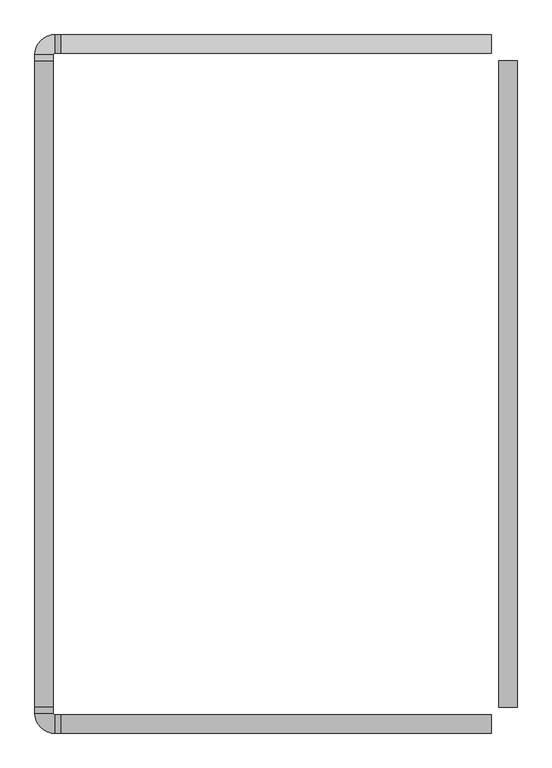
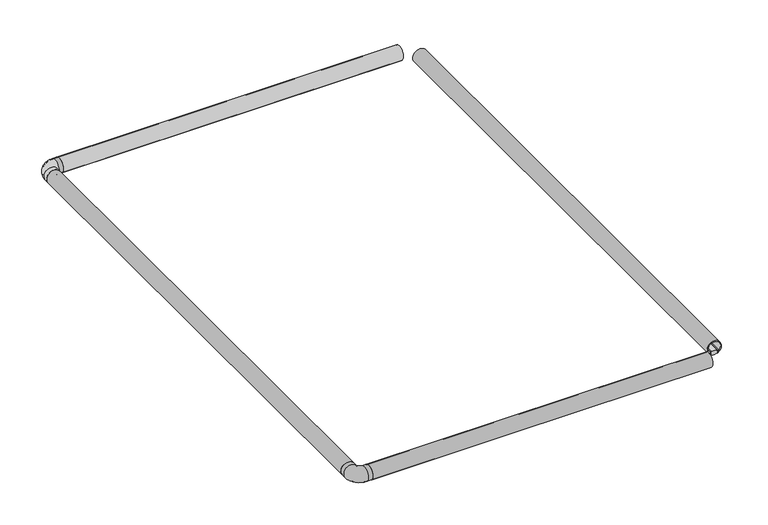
"""IFC4 building model written with IfcOpenShell, lengths in millimetres: light fixture geometry."""

from ifc_helpers import new_model, si_unit, point, frame, frame_2d, origin, place, context, project, spatial, polyline, circle_curve, ellipse_curve, trimmed, segment, composite_curve, outline, extrude, source, transform, mapped, element, save
from ifc_brep_helpers import plane_surface, cylinder_surface, revolved_surface, advanced_brep


def light_fixture_c9aaeca1(model_context):
    return source(origin(), model_context, "Body", "SolidModel", [
        advanced_brep(
        [(36.75, -69.5, 52.9333396), (36.75, -69.5, 57.259212), (38.667754, -69.5, 57.259212), (38.667754, -69.5, 55.8288843), (40.617754, -69.5, 57.2440748), (40.617754, -69.5, 59.244074), (37.667754, -69.5, 59.244074), (37.667754, -69.5, 60.744074), (42.2779794, -69.5, 60.744074), (7.7220206, -69.5, 60.744074), (12.332246, -69.5, 60.744074), (12.332246, -69.5, 59.244074), (9.382246, -69.5, 59.244074), (9.382246, -69.5, 57.2440748), (11.332246, -69.5, 55.8288843), (11.332246, -69.5, 57.259212), (13.25, -69.5, 57.259212), (13.25, -69.5, 52.9333396), (70.5, -103.25, 52.9333396), (70.5, -126.75, 52.9333396), (70.5, -126.75, 57.259212), (70.5, -128.667754, 57.259212), (70.5, -128.667754, 55.8288843), (70.5, -130.617754, 57.2440748), (70.5, -130.617754, 59.244074), (70.5, -127.667754, 59.244074), (70.5, -127.667754, 60.744074), (70.5, -132.2779794, 60.744074), (70.5, -97.7220206, 60.744074), (70.5, -102.332246, 60.744074), (70.5, -102.332246, 59.244074), (70.5, -99.382246, 59.244074), (70.5, -99.382246, 57.2440748), (70.5, -101.332246, 55.8288843), (70.5, -101.332246, 57.259212), (70.5, -103.25, 57.259212), (13.25, -85.0, 52.9333396), (36.75, -85.0, 52.9333396), (13.25, -85.0, 57.259212), (11.332246, -85.0, 57.259212), (55.0, -128.667754, 57.259212), (55.0, -126.75, 57.259212), (11.332246, -85.0, 55.8288843), (9.382246, -85.0, 57.2440748), (9.382246, -85.0, 59.244074), (12.332246, -85.0, 59.244074), (55.0, -127.667754, 59.244074), (55.0, -130.617754, 59.244074), (12.332246, -85.0, 60.744074), (7.7220206, -85.0, 60.744074), (55.0, -132.2779794, 60.744074), (55.0, -127.667754, 60.744074), (42.2779794, -85.0, 60.744074), (37.667754, -85.0, 60.744074), (55.0, -102.332246, 60.744074), (55.0, -97.7220206, 60.744074), (37.667754, -85.0, 59.244074), (40.617754, -85.0, 59.244074), (55.0, -99.382246, 59.244074), (55.0, -102.332246, 59.244074), (40.617754, -85.0, 57.2440748), (38.667754, -85.0, 55.8288843), (38.667754, -85.0, 57.259212), (36.75, -85.0, 57.259212), (55.0, -103.25, 57.259212), (55.0, -101.332246, 57.259212), (55.0, -103.25, 52.9333396), (55.0, -126.75, 52.9333396), (55.0, -128.667754, 55.8288843), (55.0, -130.617754, 57.2440748), (55.0, -99.382246, 57.2440748), (55.0, -101.332246, 55.8288843)],
        [
            (0, 1),
            (1, 2),
            (2, 3),
            (3, 4),
            (4, 5),
            (5, 6),
            (6, 7),
            (7, 8),
            (8, 9, circle_curve(frame((25.0, -69.5, 75.0), z_axis=(0.0, -1.0, 0.0), x_axis=(1.0, 0.0, 0.0)), 22.4)),
            (9, 10),
            (10, 11),
            (11, 12),
            (12, 13),
            (13, 14),
            (14, 15),
            (15, 16),
            (16, 17),
            (17, 0, circle_curve(frame((25.0, -69.5, 75.0), z_axis=(0.0, 1.0, 0.0), x_axis=(1.0, 0.0, 0.0)), 25.0)),
            (18, 19, circle_curve(frame((70.5, -115.0, 75.0), z_axis=(1.0, 0.0, 0.0), x_axis=(0.0, 1.0, 0.0)), 25.0)),
            (19, 20),
            (20, 21),
            (21, 22),
            (22, 23),
            (23, 24),
            (24, 25),
            (25, 26),
            (26, 27),
            (27, 28, circle_curve(frame((70.5, -115.0, 75.0), z_axis=(-1.0, 0.0, 0.0), x_axis=(0.0, 1.0, 0.0)), 22.4)),
            (28, 29),
            (29, 30),
            (30, 31),
            (31, 32),
            (32, 33),
            (33, 34),
            (34, 35),
            (35, 18),
            (17, 36),
            (36, 37, circle_curve(frame((25.0, -85.0, 75.0), z_axis=(0.0, 1.0, 0.0), x_axis=(1.0, 0.0, 0.0)), 25.0)),
            (37, 0),
            (16, 38),
            (38, 36),
            (15, 39),
            (39, 40, circle_curve(frame((55.0, -85.0, 57.259212), z_axis=(0.0, 0.0, 1.0), x_axis=(-1.0, 0.0, 0.0)), 43.667754)),
            (40, 21),
            (20, 41),
            (41, 38, circle_curve(frame((55.0, -85.0, 57.259212), z_axis=(0.0, 0.0, -1.0), x_axis=(-1.0, 0.0, 0.0)), 41.75)),
            (14, 42),
            (42, 39),
            (13, 43),
            (43, 42),
            (12, 44),
            (44, 43),
            (11, 45),
            (45, 46, circle_curve(frame((55.0, -85.0, 59.244074), z_axis=(0.0, 0.0, 1.0), x_axis=(-1.0, 0.0, 0.0)), 42.667754)),
            (46, 25),
            (24, 47),
            (47, 44, circle_curve(frame((55.0, -85.0, 59.244074), z_axis=(0.0, 0.0, -1.0), x_axis=(-1.0, 0.0, 0.0)), 45.617754)),
            (10, 48),
            (48, 45),
            (9, 49),
            (49, 50, circle_curve(frame((55.0, -85.0, 60.744074), z_axis=(0.0, 0.0, 1.0), x_axis=(-1.0, 0.0, 0.0)), 47.2779794)),
            (50, 27),
            (26, 51),
            (51, 48, circle_curve(frame((55.0, -85.0, 60.744074), z_axis=(0.0, 0.0, -1.0), x_axis=(-1.0, 0.0, 0.0)), 42.667754)),
            (8, 52),
            (52, 49, circle_curve(frame((25.0, -85.0, 75.0), z_axis=(0.0, -1.0, 0.0), x_axis=(1.0, 0.0, 0.0)), 22.4)),
            (7, 53),
            (53, 54, circle_curve(frame((55.0, -85.0, 60.744074), z_axis=(0.0, 0.0, 1.0), x_axis=(-1.0, 0.0, 0.0)), 17.332246)),
            (54, 29),
            (28, 55),
            (55, 52, circle_curve(frame((55.0, -85.0, 60.744074), z_axis=(0.0, 0.0, -1.0), x_axis=(-1.0, 0.0, 0.0)), 12.7220206)),
            (6, 56),
            (56, 53),
            (5, 57),
            (57, 58, circle_curve(frame((55.0, -85.0, 59.244074), z_axis=(0.0, 0.0, 1.0), x_axis=(-1.0, 0.0, 0.0)), 14.382246)),
            (58, 31),
            (30, 59),
            (59, 56, circle_curve(frame((55.0, -85.0, 59.244074), z_axis=(0.0, 0.0, -1.0), x_axis=(-1.0, 0.0, 0.0)), 17.332246)),
            (4, 60),
            (60, 57),
            (3, 61),
            (61, 60),
            (2, 62),
            (62, 61),
            (1, 63),
            (63, 64, circle_curve(frame((55.0, -85.0, 57.259212), z_axis=(0.0, 0.0, 1.0), x_axis=(-1.0, 0.0, 0.0)), 18.25)),
            (64, 35),
            (34, 65),
            (65, 62, circle_curve(frame((55.0, -85.0, 57.259212), z_axis=(0.0, 0.0, -1.0), x_axis=(-1.0, 0.0, 0.0)), 16.332246)),
            (37, 63),
            (66, 37, circle_curve(frame((55.0, -85.0, 52.9333396), z_axis=(0.0, 0.0, -1.0), x_axis=(-1.0, 0.0, 0.0)), 18.25)),
            (36, 67, circle_curve(frame((55.0, -85.0, 52.9333396), z_axis=(0.0, 0.0, 1.0), x_axis=(-1.0, 0.0, 0.0)), 41.75)),
            (67, 66, circle_curve(frame((55.0, -115.0, 75.0), z_axis=(-1.0, 0.0, 0.0), x_axis=(0.0, 1.0, 0.0)), 25.0)),
            (41, 67),
            (42, 68, circle_curve(frame((55.0, -85.0, 55.8288843), z_axis=(0.0, 0.0, 1.0), x_axis=(-1.0, 0.0, 0.0)), 43.667754)),
            (68, 40),
            (43, 69, circle_curve(frame((55.0, -85.0, 57.2440748), z_axis=(0.0, 0.0, 1.0), x_axis=(-1.0, 0.0, 0.0)), 45.617754)),
            (69, 68),
            (47, 69),
            (51, 46),
            (55, 50, circle_curve(frame((55.0, -115.0, 75.0), z_axis=(1.0, 0.0, 0.0), x_axis=(0.0, 1.0, 0.0)), 22.4)),
            (59, 54),
            (60, 70, circle_curve(frame((55.0, -85.0, 57.2440748), z_axis=(0.0, 0.0, 1.0), x_axis=(-1.0, 0.0, 0.0)), 14.382246)),
            (70, 58),
            (61, 71, circle_curve(frame((55.0, -85.0, 55.8288843), z_axis=(0.0, 0.0, 1.0), x_axis=(-1.0, 0.0, 0.0)), 16.332246)),
            (71, 70),
            (65, 71),
            (66, 64),
            (67, 19),
            (18, 66),
            (68, 22),
            (69, 23),
            (70, 32),
            (71, 33),
        ],
        [
            plane_surface(frame((25.0, -69.5, 50.0), z_axis=(0.0, 1.0, 0.0), x_axis=(0.0, 0.0, 1.0))),
            plane_surface(frame((70.5, -115.0, 50.0), z_axis=(1.0, 0.0, 0.0), x_axis=(0.0, 0.0, 1.0))),
            cylinder_surface(frame((25.0, -69.5, 75.0), z_axis=(0.0, 1.0, 0.0), x_axis=(1.0, 0.0, 0.0)), 25.0),
            plane_surface(frame((13.25, -69.5, 57.259212), z_axis=(1.0, 0.0, 0.0), x_axis=(0.0, -1.0, 0.0))),
            plane_surface(frame((11.332246, -69.5, 57.259212), z_axis=(0.0, 0.0, 1.0), x_axis=(0.0, -1.0, 0.0))),
            plane_surface(frame((11.332246, -69.5, 55.8288843), z_axis=(-1.0, 0.0, 0.0), x_axis=(0.0, -1.0, 0.0))),
            plane_surface(frame((9.382246, -69.5, 57.2440748), z_axis=(0.5873593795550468, 0.0, 0.8093262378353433), x_axis=(0.0, -1.0, 0.0))),
            plane_surface(frame((9.382246, -69.5, 59.244074), z_axis=(1.0, 0.0, 0.0), x_axis=(0.0, -1.0, 0.0))),
            plane_surface(frame((12.332246, -69.5, 59.244074), z_axis=(0.0, 0.0, -1.0), x_axis=(0.0, -1.0, 0.0))),
            plane_surface(frame((12.332246, -69.5, 60.744074), z_axis=(1.0, 0.0, 0.0), x_axis=(0.0, -1.0, 0.0))),
            plane_surface(frame((7.7220206, -69.5, 60.744074), z_axis=(0.0, 0.0, 1.0), x_axis=(0.0, -1.0, 0.0))),
            revolved_surface(polyline([(47.4, -85.0, 75.0), (47.4, -69.5, 75.0)]), (25.0, -69.5, 75.0), (0.0, -1.0, 0.0)),
            plane_surface(frame((37.667754, -69.5, 60.744074), z_axis=(0.0, 0.0, 1.0), x_axis=(0.0, -1.0, 0.0))),
            plane_surface(frame((37.667754, -69.5, 59.244074), z_axis=(-1.0, 0.0, 0.0), x_axis=(0.0, -1.0, 0.0))),
            plane_surface(frame((40.617754, -69.5, 59.244074), z_axis=(0.0, 0.0, -1.0), x_axis=(0.0, -1.0, 0.0))),
            plane_surface(frame((40.617754, -69.5, 57.2440748), z_axis=(-1.0, 0.0, 0.0), x_axis=(0.0, -1.0, 0.0))),
            plane_surface(frame((38.667754, -69.5, 55.8288843), z_axis=(-0.5873593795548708, 0.0, 0.8093262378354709), x_axis=(0.0, -1.0, 0.0))),
            plane_surface(frame((38.667754, -69.5, 57.259212), z_axis=(1.0, 0.0, 0.0), x_axis=(0.0, -1.0, 0.0))),
            plane_surface(frame((36.75, -69.5, 57.259212), z_axis=(0.0, 0.0, 1.0), x_axis=(0.0, -1.0, 0.0))),
            plane_surface(frame((36.75, -69.5, 52.9333396), z_axis=(-1.0, 0.0, 0.0), x_axis=(0.0, -1.0, 0.0))),
            revolved_surface(trimmed(ellipse_curve(frame((25.0, -85.0, 75.0), z_axis=(0.0, 1.0, 0.0), x_axis=(1.0, 0.0, 0.0)), 25.0, 25.0), [point((13.25, -85.0, 52.9333396))], [point((36.75, -85.0, 52.9333396))], True, "CARTESIAN"), (55.0, -85.0, 50.0), (0.0, 0.0, 1.0)),
            revolved_surface(polyline([(13.25, -85.0, 57.259212), (13.25, -85.0, 52.9333396)]), (55.0, -85.0, 50.0), (0.0, 0.0, 1.0)),
            cylinder_surface(frame((55.0, -85.0, 50.0), z_axis=(0.0, 0.0, 1.0), x_axis=(-1.0, 0.0, 0.0)), 43.667754),
            revolved_surface(polyline([(9.382246, -85.0, 57.2440748), (11.332246, -85.0, 55.8288843)]), (55.0, -85.0, 50.0), (0.0, 0.0, 1.0)),
            revolved_surface(polyline([(9.382246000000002, -85.0, 59.244074), (9.382246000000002, -85.0, 57.2440748)]), (55.0, -85.0, 50.0), (0.0, 0.0, 1.0)),
            revolved_surface(polyline([(12.332245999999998, -85.0, 60.744074), (12.332245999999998, -85.0, 59.244074)]), (55.0, -85.0, 50.0), (0.0, 0.0, 1.0)),
            revolved_surface(trimmed(ellipse_curve(frame((25.0, -85.0, 75.0), z_axis=(0.0, -1.0, 0.0), x_axis=(1.0, 0.0, 0.0)), 22.4, 22.4), [point((42.2779794, -85.0, 60.744074))], [point((7.7220206, -85.0, 60.744074))], True, "CARTESIAN"), (55.0, -85.0, 50.0), (0.0, 0.0, 1.0)),
            cylinder_surface(frame((55.0, -85.0, 50.0), z_axis=(0.0, 0.0, 1.0), x_axis=(-1.0, 0.0, 0.0)), 17.332246),
            cylinder_surface(frame((55.0, -85.0, 50.0), z_axis=(0.0, 0.0, 1.0), x_axis=(-1.0, 0.0, 0.0)), 14.382246),
            revolved_surface(polyline([(38.667754, -85.0, 55.8288843), (40.617754, -85.0, 57.2440748)]), (55.0, -85.0, 50.0), (0.0, 0.0, 1.0)),
            revolved_surface(polyline([(38.667754, -85.0, 57.259212), (38.667754, -85.0, 55.8288843)]), (55.0, -85.0, 50.0), (0.0, 0.0, 1.0)),
            cylinder_surface(frame((55.0, -85.0, 50.0), z_axis=(0.0, 0.0, 1.0), x_axis=(-1.0, 0.0, 0.0)), 18.25),
            cylinder_surface(frame((55.0, -115.0, 75.0), z_axis=(-1.0, 0.0, 0.0), x_axis=(0.0, 1.0, 0.0)), 25.0),
            plane_surface(frame((55.0, -126.75, 57.259212), z_axis=(0.0, 1.0, 0.0), x_axis=(1.0, 0.0, 0.0))),
            plane_surface(frame((55.0, -128.667754, 55.8288843), z_axis=(0.0, -1.0, 0.0), x_axis=(1.0, 0.0, 0.0))),
            plane_surface(frame((55.0, -130.617754, 57.2440748), z_axis=(0.0, 0.5873593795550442, 0.8093262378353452), x_axis=(1.0, 0.0, 0.0))),
            plane_surface(frame((55.0, -130.617754, 59.244074), z_axis=(0.0, 1.0, 0.0), x_axis=(1.0, 0.0, 0.0))),
            plane_surface(frame((55.0, -127.667754, 60.744074), z_axis=(0.0, 1.0, 0.0), x_axis=(1.0, 0.0, 0.0))),
            revolved_surface(polyline([(70.5, -92.6, 75.0), (55.0, -92.6, 75.0)]), (55.0, -115.0, 75.0), (1.0, 0.0, 0.0)),
            plane_surface(frame((55.0, -102.332246, 59.244074), z_axis=(0.0, -1.0, 0.0), x_axis=(1.0, 0.0, 0.0))),
            plane_surface(frame((55.0, -99.382246, 57.2440748), z_axis=(0.0, -1.0, 0.0), x_axis=(1.0, 0.0, 0.0))),
            plane_surface(frame((55.0, -101.332246, 55.8288843), z_axis=(0.0, -0.5873593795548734, 0.809326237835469), x_axis=(1.0, 0.0, 0.0))),
            plane_surface(frame((55.0, -101.332246, 57.259212), z_axis=(0.0, 1.0, 0.0), x_axis=(1.0, 0.0, 0.0))),
            plane_surface(frame((55.0, -103.25, 52.9333396), z_axis=(0.0, -1.0, 0.0), x_axis=(1.0, 0.0, 0.0))),
        ],
        [
            (0, [[1, 2, 3, 4, 5, 6, 7, 8, 9, 10, 11, 12, 13, 14, 15, 16, 17, 18]]),
            (1, [[19, 20, 21, 22, 23, 24, 25, 26, 27, 28, 29, 30, 31, 32, 33, 34, 35, 36]]),
            (2, [[-18, 37, 38, 39]]),
            (3, [[-17, 40, 41, -37]]),
            (4, [[-16, 42, 43, 44, -21, 45, 46, -40]]),
            (5, [[-15, 47, 48, -42]]),
            (6, [[-14, 49, 50, -47]]),
            (7, [[-13, 51, 52, -49]]),
            (8, [[-12, 53, 54, 55, -25, 56, 57, -51]]),
            (9, [[-11, 58, 59, -53]]),
            (10, [[-10, 60, 61, 62, -27, 63, 64, -58]]),
            (11, [[-9, 65, 66, -60]]),
            (12, [[-8, 67, 68, 69, -29, 70, 71, -65]]),
            (13, [[-7, 72, 73, -67]]),
            (14, [[-6, 74, 75, 76, -31, 77, 78, -72]]),
            (15, [[-5, 79, 80, -74]]),
            (16, [[-4, 81, 82, -79]]),
            (17, [[-3, 83, 84, -81]]),
            (18, [[-2, 85, 86, 87, -35, 88, 89, -83]]),
            (19, [[-1, -39, 90, -85]]),
            (20, [[91, -38, 92, 93]]),
            (21, [[-92, -41, -46, 94]]),
            (22, [[-43, -48, 95, 96]]),
            (23, [[-95, -50, 97, 98]]),
            (24, [[-97, -52, -57, 99]]),
            (25, [[-54, -59, -64, 100]]),
            (26, [[-61, -66, -71, 101]]),
            (27, [[-68, -73, -78, 102]]),
            (28, [[-75, -80, 103, 104]]),
            (29, [[-103, -82, 105, 106]]),
            (30, [[-105, -84, -89, 107]]),
            (31, [[-86, -90, -91, 108]]),
            (32, [[-93, 109, -19, 110]]),
            (33, [[-94, -45, -20, -109]]),
            (34, [[-96, 111, -22, -44]]),
            (35, [[-98, 112, -23, -111]]),
            (36, [[-99, -56, -24, -112]]),
            (37, [[-100, -63, -26, -55]]),
            (38, [[-101, -70, -28, -62]]),
            (39, [[-102, -77, -30, -69]]),
            (40, [[-104, 113, -32, -76]]),
            (41, [[-106, 114, -33, -113]]),
            (42, [[-107, -88, -34, -114]]),
            (43, [[-108, -110, -36, -87]]),
        ],
    ),
        advanced_brep(
        [(13.25, 1700.5, 52.9333396), (36.75, 1700.5, 52.9333396), (36.75, 1700.5, 57.259212), (40.304087, 1700.5, 57.259212), (40.304087, 1700.5, 58.785971), (34.5062575, 1700.5, 58.785971), (34.5062575, 1700.5, 64.4273482), (15.4937425, 1700.5, 64.4273482), (15.4937425, 1700.5, 58.785971), (9.695913, 1700.5, 58.785971), (9.695913, 1700.5, 57.259212), (13.25, 1700.5, 57.259212), (70.5, 1757.75, 52.9333396), (70.5, 1757.75, 57.259212), (70.5, 1761.304087, 57.259212), (70.5, 1761.304087, 58.785971), (70.5, 1755.5062575, 58.785971), (70.5, 1755.5062575, 64.4273482), (70.5, 1736.4937425, 64.4273482), (70.5, 1736.4937425, 58.785971), (70.5, 1730.695913, 58.785971), (70.5, 1730.695913, 57.259212), (70.5, 1734.25, 57.259212), (70.5, 1734.25, 52.9333396), (13.25, 1716.0, 52.9333396), (36.75, 1716.0, 52.9333396), (36.75, 1716.0, 57.259212), (55.0, 1734.25, 57.259212), (55.0, 1730.695913, 57.259212), (40.304087, 1716.0, 57.259212), (40.304087, 1716.0, 58.785971), (55.0, 1730.695913, 58.785971), (55.0, 1736.4937425, 58.785971), (34.5062575, 1716.0, 58.785971), (34.5062575, 1716.0, 64.4273482), (55.0, 1736.4937425, 64.4273482), (55.0, 1755.5062575, 64.4273482), (15.4937425, 1716.0, 64.4273482), (15.4937425, 1716.0, 58.785971), (55.0, 1755.5062575, 58.785971), (55.0, 1761.304087, 58.785971), (9.695913, 1716.0, 58.785971), (9.695913, 1716.0, 57.259212), (55.0, 1761.304087, 57.259212), (55.0, 1757.75, 57.259212), (13.25, 1716.0, 57.259212), (55.0, 1734.25, 52.9333396), (55.0, 1757.75, 52.9333396)],
        [
            (0, 1, circle_curve(frame((25.0, 1700.5, 75.0), z_axis=(0.0, -1.0, 0.0), x_axis=(-1.0, 0.0, 0.0)), 25.0)),
            (1, 2),
            (2, 3),
            (3, 4),
            (4, 5),
            (5, 6),
            (6, 7),
            (7, 8),
            (8, 9),
            (9, 10),
            (10, 11),
            (11, 0),
            (12, 13),
            (13, 14),
            (14, 15),
            (15, 16),
            (16, 17),
            (17, 18),
            (18, 19),
            (19, 20),
            (20, 21),
            (21, 22),
            (22, 23),
            (23, 12, circle_curve(frame((70.5, 1746.0, 75.0), z_axis=(1.0, 0.0, 0.0), x_axis=(0.0, 1.0, 0.0)), 25.0)),
            (0, 24),
            (24, 25, circle_curve(frame((25.0, 1716.0, 75.0), z_axis=(0.0, -1.0, 0.0), x_axis=(-1.0, 0.0, 0.0)), 25.0)),
            (25, 1),
            (25, 26),
            (26, 2),
            (26, 27, circle_curve(frame((55.0, 1716.0, 57.259212), z_axis=(0.0, 0.0, -1.0), x_axis=(-1.0, 0.0, 0.0)), 18.25)),
            (27, 22),
            (21, 28),
            (28, 29, circle_curve(frame((55.0, 1716.0, 57.259212), z_axis=(0.0, 0.0, 1.0), x_axis=(-1.0, 0.0, 0.0)), 14.695913)),
            (29, 3),
            (29, 30),
            (30, 4),
            (30, 31, circle_curve(frame((55.0, 1716.0, 58.785971), z_axis=(0.0, 0.0, -1.0), x_axis=(-1.0, 0.0, 0.0)), 14.695913)),
            (31, 20),
            (19, 32),
            (32, 33, circle_curve(frame((55.0, 1716.0, 58.785971), z_axis=(0.0, 0.0, 1.0), x_axis=(-1.0, 0.0, 0.0)), 20.4937425)),
            (33, 5),
            (33, 34),
            (34, 6),
            (34, 35, circle_curve(frame((55.0, 1716.0, 64.4273482), z_axis=(0.0, 0.0, -1.0), x_axis=(-1.0, 0.0, 0.0)), 20.4937425)),
            (35, 18),
            (17, 36),
            (36, 37, circle_curve(frame((55.0, 1716.0, 64.4273482), z_axis=(0.0, 0.0, 1.0), x_axis=(-1.0, 0.0, 0.0)), 39.5062575)),
            (37, 7),
            (37, 38),
            (38, 8),
            (38, 39, circle_curve(frame((55.0, 1716.0, 58.785971), z_axis=(0.0, 0.0, -1.0), x_axis=(-1.0, 0.0, 0.0)), 39.5062575)),
            (39, 16),
            (15, 40),
            (40, 41, circle_curve(frame((55.0, 1716.0, 58.785971), z_axis=(0.0, 0.0, 1.0), x_axis=(-1.0, 0.0, 0.0)), 45.304087)),
            (41, 9),
            (41, 42),
            (42, 10),
            (42, 43, circle_curve(frame((55.0, 1716.0, 57.259212), z_axis=(0.0, 0.0, -1.0), x_axis=(-1.0, 0.0, 0.0)), 45.304087)),
            (43, 14),
            (13, 44),
            (44, 45, circle_curve(frame((55.0, 1716.0, 57.259212), z_axis=(0.0, 0.0, 1.0), x_axis=(-1.0, 0.0, 0.0)), 41.75)),
            (45, 11),
            (45, 24),
            (46, 25, circle_curve(frame((55.0, 1716.0, 52.9333396), z_axis=(0.0, 0.0, 1.0), x_axis=(-1.0, 0.0, 0.0)), 18.25)),
            (24, 47, circle_curve(frame((55.0, 1716.0, 52.9333396), z_axis=(0.0, 0.0, -1.0), x_axis=(-1.0, 0.0, 0.0)), 41.75)),
            (47, 46, circle_curve(frame((55.0, 1746.0, 75.0), z_axis=(-1.0, 0.0, 0.0), x_axis=(0.0, 1.0, 0.0)), 25.0)),
            (46, 27),
            (28, 31),
            (32, 35),
            (36, 39),
            (40, 43),
            (44, 47),
            (47, 12),
            (23, 46),
        ],
        [
            plane_surface(frame((25.0, 1700.5, 50.0), z_axis=(0.0, -1.0, 0.0), x_axis=(0.0, 0.0, 1.0))),
            plane_surface(frame((70.5, 1746.0, 50.0), z_axis=(1.0, 0.0, 0.0), x_axis=(0.0, 0.0, 1.0))),
            cylinder_surface(frame((25.0, 1700.5, 75.0), z_axis=(0.0, -1.0, 0.0), x_axis=(-1.0, 0.0, 0.0)), 25.0),
            plane_surface(frame((36.75, 1700.5, 52.9333396), z_axis=(1.0, 0.0, 0.0), x_axis=(0.0, 1.0, 0.0))),
            plane_surface(frame((36.75, 1700.5, 57.259212), z_axis=(0.0, 0.0, -1.0), x_axis=(0.0, 1.0, 0.0))),
            plane_surface(frame((40.304087, 1700.5, 57.259212), z_axis=(1.0, 0.0, 0.0), x_axis=(0.0, 1.0, 0.0))),
            plane_surface(frame((40.304087, 1700.5, 58.785971), z_axis=(0.0, 0.0, 1.0), x_axis=(0.0, 1.0, 0.0))),
            plane_surface(frame((34.5062575, 1700.5, 58.785971), z_axis=(1.0, 0.0, 0.0), x_axis=(0.0, 1.0, 0.0))),
            plane_surface(frame((34.5062575, 1700.5, 64.4273482), z_axis=(0.0, 0.0, 1.0), x_axis=(0.0, 1.0, 0.0))),
            plane_surface(frame((15.4937425, 1700.5, 64.4273482), z_axis=(-1.0, 0.0, 0.0), x_axis=(0.0, 1.0, 0.0))),
            plane_surface(frame((15.4937425, 1700.5, 58.785971), z_axis=(0.0, 0.0, 1.0), x_axis=(0.0, 1.0, 0.0))),
            plane_surface(frame((9.695913, 1700.5, 58.785971), z_axis=(-1.0, 0.0, 0.0), x_axis=(0.0, 1.0, 0.0))),
            plane_surface(frame((9.695913, 1700.5, 57.259212), z_axis=(0.0, 0.0, -1.0), x_axis=(0.0, 1.0, 0.0))),
            plane_surface(frame((13.25, 1700.5, 57.259212), z_axis=(-1.0, 0.0, 0.0), x_axis=(0.0, 1.0, 0.0))),
            revolved_surface(trimmed(ellipse_curve(frame((25.0, 1716.0, 75.0), z_axis=(0.0, -1.0, 0.0), x_axis=(-1.0, 0.0, 0.0)), 25.0, 25.0), [point((13.25, 1716.0, 52.9333396))], [point((36.75, 1716.0, 52.9333396))], True, "CARTESIAN"), (55.0, 1716.0, 50.0), (0.0, 0.0, -1.0)),
            revolved_surface(polyline([(36.75, 1716.0, 52.9333396), (36.75, 1716.0, 57.259212)]), (55.0, 1716.0, 50.0), (0.0, 0.0, -1.0)),
            revolved_surface(polyline([(40.304087, 1716.0, 57.259212), (40.304087, 1716.0, 58.785971)]), (55.0, 1716.0, 50.0), (0.0, 0.0, -1.0)),
            revolved_surface(polyline([(34.506257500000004, 1716.0, 58.785971), (34.506257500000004, 1716.0, 64.4273482)]), (55.0, 1716.0, 50.0), (0.0, 0.0, -1.0)),
            cylinder_surface(frame((55.0, 1716.0, 50.0), z_axis=(0.0, 0.0, -1.0), x_axis=(-1.0, 0.0, 0.0)), 39.5062575),
            cylinder_surface(frame((55.0, 1716.0, 50.0), z_axis=(0.0, 0.0, -1.0), x_axis=(-1.0, 0.0, 0.0)), 45.304087),
            cylinder_surface(frame((55.0, 1716.0, 50.0), z_axis=(0.0, 0.0, -1.0), x_axis=(-1.0, 0.0, 0.0)), 41.75),
            cylinder_surface(frame((55.0, 1746.0, 75.0), z_axis=(-1.0, 0.0, 0.0), x_axis=(0.0, 1.0, 0.0)), 25.0),
            plane_surface(frame((55.0, 1734.25, 52.9333396), z_axis=(0.0, -1.0, 0.0), x_axis=(1.0, 0.0, 0.0))),
            plane_surface(frame((55.0, 1730.695913, 57.259212), z_axis=(0.0, -1.0, 0.0), x_axis=(1.0, 0.0, 0.0))),
            plane_surface(frame((55.0, 1736.4937425, 58.785971), z_axis=(0.0, -1.0, 0.0), x_axis=(1.0, 0.0, 0.0))),
            plane_surface(frame((55.0, 1755.5062575, 64.4273482), z_axis=(0.0, 1.0, 0.0), x_axis=(1.0, 0.0, 0.0))),
            plane_surface(frame((55.0, 1761.304087, 58.785971), z_axis=(0.0, 1.0, 0.0), x_axis=(1.0, 0.0, 0.0))),
            plane_surface(frame((55.0, 1757.75, 57.259212), z_axis=(0.0, 1.0, 0.0), x_axis=(1.0, 0.0, 0.0))),
        ],
        [
            (0, [[1, 2, 3, 4, 5, 6, 7, 8, 9, 10, 11, 12]]),
            (1, [[13, 14, 15, 16, 17, 18, 19, 20, 21, 22, 23, 24]]),
            (2, [[-1, 25, 26, 27]]),
            (3, [[-2, -27, 28, 29]]),
            (4, [[-3, -29, 30, 31, -22, 32, 33, 34]]),
            (5, [[-4, -34, 35, 36]]),
            (6, [[-5, -36, 37, 38, -20, 39, 40, 41]]),
            (7, [[-6, -41, 42, 43]]),
            (8, [[-7, -43, 44, 45, -18, 46, 47, 48]]),
            (9, [[-8, -48, 49, 50]]),
            (10, [[-9, -50, 51, 52, -16, 53, 54, 55]]),
            (11, [[-10, -55, 56, 57]]),
            (12, [[-11, -57, 58, 59, -14, 60, 61, 62]]),
            (13, [[-12, -62, 63, -25]]),
            (14, [[64, -26, 65, 66]]),
            (15, [[-30, -28, -64, 67]]),
            (16, [[-37, -35, -33, 68]]),
            (17, [[-44, -42, -40, 69]]),
            (18, [[-51, -49, -47, 70]]),
            (19, [[-58, -56, -54, 71]]),
            (20, [[-65, -63, -61, 72]]),
            (21, [[-66, 73, -24, 74]]),
            (22, [[-67, -74, -23, -31]]),
            (23, [[-68, -32, -21, -38]]),
            (24, [[-69, -39, -19, -45]]),
            (25, [[-70, -46, -17, -52]]),
            (26, [[-71, -53, -15, -59]]),
            (27, [[-72, -60, -13, -73]]),
        ],
    ),
        advanced_brep(
        [(36.75, 1700.5, 52.9333396), (13.25, 1700.5, 52.9333396), (13.25, 1700.5, 57.259212), (11.332246, 1700.5, 57.259212), (11.332246, 1700.5, 55.8288843), (9.382246, 1700.5, 57.2440748), (9.382246, 1700.5, 59.244074), (12.332246, 1700.5, 59.244074), (12.332246, 1700.5, 60.744074), (7.7220206, 1700.5, 60.744074), (42.2779794, 1700.5, 60.744074), (37.667754, 1700.5, 60.744074), (37.667754, 1700.5, 59.244074), (40.617754, 1700.5, 59.244074), (40.617754, 1700.5, 57.2440748), (38.667754, 1700.5, 55.8288843), (38.667754, 1700.5, 57.259212), (36.75, 1700.5, 57.259212), (70.5, 1734.25, 52.9333396), (70.5, 1734.25, 57.259212), (70.5, 1732.332246, 57.259212), (70.5, 1732.332246, 55.8288843), (70.5, 1730.382246, 57.2440748), (70.5, 1730.382246, 59.244074), (70.5, 1733.332246, 59.244074), (70.5, 1733.332246, 60.744074), (70.5, 1728.7220206, 60.744074), (70.5, 1763.2779794, 60.744074), (70.5, 1758.667754, 60.744074), (70.5, 1758.667754, 59.244074), (70.5, 1761.617754, 59.244074), (70.5, 1761.617754, 57.2440748), (70.5, 1759.667754, 55.8288843), (70.5, 1759.667754, 57.259212), (70.5, 1757.75, 57.259212), (70.5, 1757.75, 52.9333396), (36.75, 1716.0, 52.9333396), (13.25, 1716.0, 52.9333396), (13.25, 1716.0, 57.259212), (55.0, 1757.75, 57.259212), (55.0, 1759.667754, 57.259212), (11.332246, 1716.0, 57.259212), (11.332246, 1716.0, 55.8288843), (9.382246, 1716.0, 57.2440748), (9.382246, 1716.0, 59.244074), (55.0, 1761.617754, 59.244074), (55.0, 1758.667754, 59.244074), (12.332246, 1716.0, 59.244074), (12.332246, 1716.0, 60.744074), (55.0, 1758.667754, 60.744074), (55.0, 1763.2779794, 60.744074), (7.7220206, 1716.0, 60.744074), (42.2779794, 1716.0, 60.744074), (55.0, 1728.7220206, 60.744074), (55.0, 1733.332246, 60.744074), (37.667754, 1716.0, 60.744074), (37.667754, 1716.0, 59.244074), (55.0, 1733.332246, 59.244074), (55.0, 1730.382246, 59.244074), (40.617754, 1716.0, 59.244074), (40.617754, 1716.0, 57.2440748), (38.667754, 1716.0, 55.8288843), (38.667754, 1716.0, 57.259212), (55.0, 1732.332246, 57.259212), (55.0, 1734.25, 57.259212), (36.75, 1716.0, 57.259212), (55.0, 1757.75, 52.9333396), (55.0, 1734.25, 52.9333396), (55.0, 1759.667754, 55.8288843), (55.0, 1761.617754, 57.2440748), (55.0, 1730.382246, 57.2440748), (55.0, 1732.332246, 55.8288843)],
        [
            (0, 1, circle_curve(frame((25.0, 1700.5, 75.0), z_axis=(0.0, -1.0, 0.0), x_axis=(-1.0, 0.0, 0.0)), 25.0)),
            (1, 2),
            (2, 3),
            (3, 4),
            (4, 5),
            (5, 6),
            (6, 7),
            (7, 8),
            (8, 9),
            (9, 10, circle_curve(frame((25.0, 1700.5, 75.0), z_axis=(0.0, 1.0, 0.0), x_axis=(-1.0, 0.0, 0.0)), 22.4)),
            (10, 11),
            (11, 12),
            (12, 13),
            (13, 14),
            (14, 15),
            (15, 16),
            (16, 17),
            (17, 0),
            (18, 19),
            (19, 20),
            (20, 21),
            (21, 22),
            (22, 23),
            (23, 24),
            (24, 25),
            (25, 26),
            (26, 27, circle_curve(frame((70.5, 1746.0, 75.0), z_axis=(-1.0, 0.0, 0.0), x_axis=(0.0, 1.0, 0.0)), 22.4)),
            (27, 28),
            (28, 29),
            (29, 30),
            (30, 31),
            (31, 32),
            (32, 33),
            (33, 34),
            (34, 35),
            (35, 18, circle_curve(frame((70.5, 1746.0, 75.0), z_axis=(1.0, 0.0, 0.0), x_axis=(0.0, 1.0, 0.0)), 25.0)),
            (0, 36),
            (36, 37, circle_curve(frame((25.0, 1716.0, 75.0), z_axis=(0.0, -1.0, 0.0), x_axis=(-1.0, 0.0, 0.0)), 25.0)),
            (37, 1),
            (37, 38),
            (38, 2),
            (38, 39, circle_curve(frame((55.0, 1716.0, 57.259212), z_axis=(0.0, 0.0, -1.0), x_axis=(-1.0, 0.0, 0.0)), 41.75)),
            (39, 34),
            (33, 40),
            (40, 41, circle_curve(frame((55.0, 1716.0, 57.259212), z_axis=(0.0, 0.0, 1.0), x_axis=(-1.0, 0.0, 0.0)), 43.667754)),
            (41, 3),
            (41, 42),
            (42, 4),
            (42, 43),
            (43, 5),
            (43, 44),
            (44, 6),
            (44, 45, circle_curve(frame((55.0, 1716.0, 59.244074), z_axis=(0.0, 0.0, -1.0), x_axis=(-1.0, 0.0, 0.0)), 45.617754)),
            (45, 30),
            (29, 46),
            (46, 47, circle_curve(frame((55.0, 1716.0, 59.244074), z_axis=(0.0, 0.0, 1.0), x_axis=(-1.0, 0.0, 0.0)), 42.667754)),
            (47, 7),
            (47, 48),
            (48, 8),
            (48, 49, circle_curve(frame((55.0, 1716.0, 60.744074), z_axis=(0.0, 0.0, -1.0), x_axis=(-1.0, 0.0, 0.0)), 42.667754)),
            (49, 28),
            (27, 50),
            (50, 51, circle_curve(frame((55.0, 1716.0, 60.744074), z_axis=(0.0, 0.0, 1.0), x_axis=(-1.0, 0.0, 0.0)), 47.2779794)),
            (51, 9),
            (51, 52, circle_curve(frame((25.0, 1716.0, 75.0), z_axis=(0.0, 1.0, 0.0), x_axis=(-1.0, 0.0, 0.0)), 22.4)),
            (52, 10),
            (52, 53, circle_curve(frame((55.0, 1716.0, 60.744074), z_axis=(0.0, 0.0, -1.0), x_axis=(-1.0, 0.0, 0.0)), 12.7220206)),
            (53, 26),
            (25, 54),
            (54, 55, circle_curve(frame((55.0, 1716.0, 60.744074), z_axis=(0.0, 0.0, 1.0), x_axis=(-1.0, 0.0, 0.0)), 17.332246)),
            (55, 11),
            (55, 56),
            (56, 12),
            (56, 57, circle_curve(frame((55.0, 1716.0, 59.244074), z_axis=(0.0, 0.0, -1.0), x_axis=(-1.0, 0.0, 0.0)), 17.332246)),
            (57, 24),
            (23, 58),
            (58, 59, circle_curve(frame((55.0, 1716.0, 59.244074), z_axis=(0.0, 0.0, 1.0), x_axis=(-1.0, 0.0, 0.0)), 14.382246)),
            (59, 13),
            (59, 60),
            (60, 14),
            (60, 61),
            (61, 15),
            (61, 62),
            (62, 16),
            (62, 63, circle_curve(frame((55.0, 1716.0, 57.259212), z_axis=(0.0, 0.0, -1.0), x_axis=(-1.0, 0.0, 0.0)), 16.332246)),
            (63, 20),
            (19, 64),
            (64, 65, circle_curve(frame((55.0, 1716.0, 57.259212), z_axis=(0.0, 0.0, 1.0), x_axis=(-1.0, 0.0, 0.0)), 18.25)),
            (65, 17),
            (65, 36),
            (66, 37, circle_curve(frame((55.0, 1716.0, 52.9333396), z_axis=(0.0, 0.0, 1.0), x_axis=(-1.0, 0.0, 0.0)), 41.75)),
            (36, 67, circle_curve(frame((55.0, 1716.0, 52.9333396), z_axis=(0.0, 0.0, -1.0), x_axis=(-1.0, 0.0, 0.0)), 18.25)),
            (67, 66, circle_curve(frame((55.0, 1746.0, 75.0), z_axis=(-1.0, 0.0, 0.0), x_axis=(0.0, 1.0, 0.0)), 25.0)),
            (66, 39),
            (68, 42, circle_curve(frame((55.0, 1716.0, 55.8288843), z_axis=(0.0, 0.0, 1.0), x_axis=(-1.0, 0.0, 0.0)), 43.667754)),
            (40, 68),
            (69, 43, circle_curve(frame((55.0, 1716.0, 57.2440748), z_axis=(0.0, 0.0, 1.0), x_axis=(-1.0, 0.0, 0.0)), 45.617754)),
            (68, 69),
            (69, 45),
            (46, 49),
            (50, 53, circle_curve(frame((55.0, 1746.0, 75.0), z_axis=(1.0, 0.0, 0.0), x_axis=(0.0, 1.0, 0.0)), 22.4)),
            (54, 57),
            (70, 60, circle_curve(frame((55.0, 1716.0, 57.2440748), z_axis=(0.0, 0.0, 1.0), x_axis=(-1.0, 0.0, 0.0)), 14.382246)),
            (58, 70),
            (71, 61, circle_curve(frame((55.0, 1716.0, 55.8288843), z_axis=(0.0, 0.0, 1.0), x_axis=(-1.0, 0.0, 0.0)), 16.332246)),
            (70, 71),
            (71, 63),
            (64, 67),
            (67, 18),
            (35, 66),
            (32, 68),
            (31, 69),
            (22, 70),
            (21, 71),
        ],
        [
            plane_surface(frame((25.0, 1700.5, 50.0), z_axis=(0.0, -1.0, 0.0), x_axis=(0.0, 0.0, 1.0))),
            plane_surface(frame((70.5, 1746.0, 50.0), z_axis=(1.0, 0.0, 0.0), x_axis=(0.0, 0.0, 1.0))),
            cylinder_surface(frame((25.0, 1700.5, 75.0), z_axis=(0.0, -1.0, 0.0), x_axis=(-1.0, 0.0, 0.0)), 25.0),
            plane_surface(frame((13.25, 1700.5, 52.9333396), z_axis=(1.0, 0.0, 0.0), x_axis=(0.0, 1.0, 0.0))),
            plane_surface(frame((13.25, 1700.5, 57.259212), z_axis=(0.0, 0.0, 1.0), x_axis=(0.0, 1.0, 0.0))),
            plane_surface(frame((11.332246, 1700.5, 57.259212), z_axis=(-1.0, 0.0, 0.0), x_axis=(0.0, 1.0, 0.0))),
            plane_surface(frame((11.332246, 1700.5, 55.8288843), z_axis=(0.5873593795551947, 0.0, 0.8093262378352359), x_axis=(0.0, 1.0, 0.0))),
            plane_surface(frame((9.382246, 1700.5, 57.2440748), z_axis=(1.0, 0.0, 0.0), x_axis=(0.0, 1.0, 0.0))),
            plane_surface(frame((9.382246, 1700.5, 59.244074), z_axis=(0.0, 0.0, -1.0), x_axis=(0.0, 1.0, 0.0))),
            plane_surface(frame((12.332246, 1700.5, 59.244074), z_axis=(1.0, 0.0, 0.0), x_axis=(0.0, 1.0, 0.0))),
            plane_surface(frame((12.332246, 1700.5, 60.744074), z_axis=(0.0, 0.0, 1.0), x_axis=(0.0, 1.0, 0.0))),
            revolved_surface(polyline([(2.6000000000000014, 1716.0, 75.0), (2.6000000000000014, 1700.5, 75.0)]), (25.0, 1700.5, 75.0), (0.0, 1.0, 0.0)),
            plane_surface(frame((42.2779794, 1700.5, 60.744074), z_axis=(0.0, 0.0, 1.0), x_axis=(0.0, 1.0, 0.0))),
            plane_surface(frame((37.667754, 1700.5, 60.744074), z_axis=(-1.0, 0.0, 0.0), x_axis=(0.0, 1.0, 0.0))),
            plane_surface(frame((37.667754, 1700.5, 59.244074), z_axis=(0.0, 0.0, -1.0), x_axis=(0.0, 1.0, 0.0))),
            plane_surface(frame((40.617754, 1700.5, 59.244074), z_axis=(-1.0, 0.0, 0.0), x_axis=(0.0, 1.0, 0.0))),
            plane_surface(frame((40.617754, 1700.5, 57.2440748), z_axis=(-0.5873593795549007, 0.0, 0.8093262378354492), x_axis=(0.0, 1.0, 0.0))),
            plane_surface(frame((38.667754, 1700.5, 55.8288843), z_axis=(1.0, 0.0, 0.0), x_axis=(0.0, 1.0, 0.0))),
            plane_surface(frame((38.667754, 1700.5, 57.259212), z_axis=(0.0, 0.0, 1.0), x_axis=(0.0, 1.0, 0.0))),
            plane_surface(frame((36.75, 1700.5, 57.259212), z_axis=(-1.0, 0.0, 0.0), x_axis=(0.0, 1.0, 0.0))),
            revolved_surface(trimmed(ellipse_curve(frame((25.0, 1716.0, 75.0), z_axis=(0.0, -1.0, 0.0), x_axis=(-1.0, 0.0, 0.0)), 25.0, 25.0), [point((36.75, 1716.0, 52.9333396))], [point((13.25, 1716.0, 52.9333396))], True, "CARTESIAN"), (55.0, 1716.0, 50.0), (0.0, 0.0, -1.0)),
            revolved_surface(polyline([(13.25, 1716.0, 52.9333396), (13.25, 1716.0, 57.259212)]), (55.0, 1716.0, 50.0), (0.0, 0.0, -1.0)),
            cylinder_surface(frame((55.0, 1716.0, 50.0), z_axis=(0.0, 0.0, -1.0), x_axis=(-1.0, 0.0, 0.0)), 43.667754),
            revolved_surface(polyline([(11.332246, 1716.0, 55.8288843), (9.382246, 1716.0, 57.2440748)]), (55.0, 1716.0, 50.0), (0.0, 0.0, -1.0)),
            revolved_surface(polyline([(9.382246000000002, 1716.0, 57.2440748), (9.382246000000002, 1716.0, 59.244074)]), (55.0, 1716.0, 50.0), (0.0, 0.0, -1.0)),
            revolved_surface(polyline([(12.332245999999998, 1716.0, 59.244074), (12.332245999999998, 1716.0, 60.744074)]), (55.0, 1716.0, 50.0), (0.0, 0.0, -1.0)),
            revolved_surface(trimmed(ellipse_curve(frame((25.0, 1716.0, 75.0), z_axis=(0.0, 1.0, 0.0), x_axis=(-1.0, 0.0, 0.0)), 22.4, 22.4), [point((7.7220206, 1716.0, 60.744074))], [point((42.2779794, 1716.0, 60.744074))], True, "CARTESIAN"), (55.0, 1716.0, 50.0), (0.0, 0.0, -1.0)),
            cylinder_surface(frame((55.0, 1716.0, 50.0), z_axis=(0.0, 0.0, -1.0), x_axis=(-1.0, 0.0, 0.0)), 17.332246),
            cylinder_surface(frame((55.0, 1716.0, 50.0), z_axis=(0.0, 0.0, -1.0), x_axis=(-1.0, 0.0, 0.0)), 14.382246),
            revolved_surface(polyline([(40.617754, 1716.0, 57.2440748), (38.667754, 1716.0, 55.8288843)]), (55.0, 1716.0, 50.0), (0.0, 0.0, -1.0)),
            revolved_surface(polyline([(38.667754, 1716.0, 55.8288843), (38.667754, 1716.0, 57.259212)]), (55.0, 1716.0, 50.0), (0.0, 0.0, -1.0)),
            cylinder_surface(frame((55.0, 1716.0, 50.0), z_axis=(0.0, 0.0, -1.0), x_axis=(-1.0, 0.0, 0.0)), 18.25),
            cylinder_surface(frame((55.0, 1746.0, 75.0), z_axis=(-1.0, 0.0, 0.0), x_axis=(0.0, 1.0, 0.0)), 25.0),
            plane_surface(frame((55.0, 1757.75, 52.9333396), z_axis=(0.0, -1.0, 0.0), x_axis=(1.0, 0.0, 0.0))),
            plane_surface(frame((55.0, 1759.667754, 57.259212), z_axis=(0.0, 1.0, 0.0), x_axis=(1.0, 0.0, 0.0))),
            plane_surface(frame((55.0, 1759.667754, 55.8288843), z_axis=(0.0, -0.5873593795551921, 0.8093262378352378), x_axis=(1.0, 0.0, 0.0))),
            plane_surface(frame((55.0, 1761.617754, 57.2440748), z_axis=(0.0, -1.0, 0.0), x_axis=(1.0, 0.0, 0.0))),
            plane_surface(frame((55.0, 1758.667754, 59.244074), z_axis=(0.0, -1.0, 0.0), x_axis=(1.0, 0.0, 0.0))),
            revolved_surface(polyline([(70.5, 1768.4, 75.0), (55.0, 1768.4, 75.0)]), (55.0, 1746.0, 75.0), (1.0, 0.0, 0.0)),
            plane_surface(frame((55.0, 1733.332246, 60.744074), z_axis=(0.0, 1.0, 0.0), x_axis=(1.0, 0.0, 0.0))),
            plane_surface(frame((55.0, 1730.382246, 59.244074), z_axis=(0.0, 1.0, 0.0), x_axis=(1.0, 0.0, 0.0))),
            plane_surface(frame((55.0, 1730.382246, 57.2440748), z_axis=(0.0, 0.5873593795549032, 0.8093262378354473), x_axis=(1.0, 0.0, 0.0))),
            plane_surface(frame((55.0, 1732.332246, 55.8288843), z_axis=(0.0, -1.0, 0.0), x_axis=(1.0, 0.0, 0.0))),
            plane_surface(frame((55.0, 1734.25, 57.259212), z_axis=(0.0, 1.0, 0.0), x_axis=(1.0, 0.0, 0.0))),
        ],
        [
            (0, [[1, 2, 3, 4, 5, 6, 7, 8, 9, 10, 11, 12, 13, 14, 15, 16, 17, 18]]),
            (1, [[19, 20, 21, 22, 23, 24, 25, 26, 27, 28, 29, 30, 31, 32, 33, 34, 35, 36]]),
            (2, [[-1, 37, 38, 39]]),
            (3, [[-2, -39, 40, 41]]),
            (4, [[-3, -41, 42, 43, -34, 44, 45, 46]]),
            (5, [[-4, -46, 47, 48]]),
            (6, [[-5, -48, 49, 50]]),
            (7, [[-6, -50, 51, 52]]),
            (8, [[-7, -52, 53, 54, -30, 55, 56, 57]]),
            (9, [[-8, -57, 58, 59]]),
            (10, [[-9, -59, 60, 61, -28, 62, 63, 64]]),
            (11, [[-10, -64, 65, 66]]),
            (12, [[-11, -66, 67, 68, -26, 69, 70, 71]]),
            (13, [[-12, -71, 72, 73]]),
            (14, [[-13, -73, 74, 75, -24, 76, 77, 78]]),
            (15, [[-14, -78, 79, 80]]),
            (16, [[-15, -80, 81, 82]]),
            (17, [[-16, -82, 83, 84]]),
            (18, [[-17, -84, 85, 86, -20, 87, 88, 89]]),
            (19, [[-18, -89, 90, -37]]),
            (20, [[91, -38, 92, 93]]),
            (21, [[-42, -40, -91, 94]]),
            (22, [[95, -47, -45, 96]]),
            (23, [[97, -49, -95, 98]]),
            (24, [[-53, -51, -97, 99]]),
            (25, [[-60, -58, -56, 100]]),
            (26, [[-67, -65, -63, 101]]),
            (27, [[-74, -72, -70, 102]]),
            (28, [[103, -79, -77, 104]]),
            (29, [[105, -81, -103, 106]]),
            (30, [[-85, -83, -105, 107]]),
            (31, [[-92, -90, -88, 108]]),
            (32, [[-93, 109, -36, 110]]),
            (33, [[-94, -110, -35, -43]]),
            (34, [[-96, -44, -33, 111]]),
            (35, [[-98, -111, -32, 112]]),
            (36, [[-99, -112, -31, -54]]),
            (37, [[-100, -55, -29, -61]]),
            (38, [[-101, -62, -27, -68]]),
            (39, [[-102, -69, -25, -75]]),
            (40, [[-104, -76, -23, 113]]),
            (41, [[-106, -113, -22, 114]]),
            (42, [[-107, -114, -21, -86]]),
            (43, [[-108, -87, -19, -109]]),
        ],
    ),
        extrude(outline(composite_curve([segment(polyline([(1757.75, 52.9333396), (1757.75, 57.259212), (1759.667754, 57.259212), (1759.667754, 55.8288843), (1761.617754, 57.2440748), (1761.617754, 59.244074), (1758.667754, 59.244074), (1758.667754, 60.744074), (1763.2779794, 60.744074)]), True, "CONTINUOUS"), segment(trimmed(circle_curve(frame_2d((1746.0, 75.0)), 22.4), [point((1763.2779794, 60.744074))], [point((1728.7220206, 60.744074))], True, "CARTESIAN"), True, "CONTINUOUS"), segment(polyline([(1728.7220206, 60.744074), (1733.332246, 60.744074), (1733.332246, 59.244074), (1730.382246, 59.244074), (1730.382246, 57.2440748), (1732.332246, 55.8288843), (1732.332246, 57.259212), (1734.25, 57.259212), (1734.25, 52.9333396)]), True, "CONTINUOUS"), segment(trimmed(circle_curve(frame_2d((1746.0, 75.0)), 25.0), [point((1734.25, 52.9333396))], [point((1757.75, 52.9333396))], False, "CARTESIAN"), True, "CONTINUOUS")], self_intersect=False)), frame((70.5, 0.0, 0.0), z_axis=(1.0, 0.0, 0.0), x_axis=(0.0, 1.0, 0.0)), (0.0, 0.0, 1.0), 1180.0032014),
        extrude(outline(composite_curve([segment(polyline([(1734.25, 52.9333396), (1734.25, 57.259212), (1730.695913, 57.259212), (1730.695913, 58.785971), (1736.4937425, 58.785971), (1736.4937425, 64.4273482), (1755.5062575, 64.4273482), (1755.5062575, 58.785971), (1761.304087, 58.785971), (1761.304087, 57.259212), (1757.75, 57.259212), (1757.75, 52.9333396)]), True, "CONTINUOUS"), segment(trimmed(circle_curve(frame_2d((1746.0, 75.0)), 25.0), [point((1757.75, 52.9333396))], [point((1734.25, 52.9333396))], False, "CARTESIAN"), True, "CONTINUOUS")], self_intersect=False)), frame((70.5, 0.0, 0.0), z_axis=(1.0, 0.0, 0.0), x_axis=(0.0, 1.0, 0.0)), (0.0, 0.0, 1.0), 1180.0032014),
        extrude(outline(composite_curve([segment(polyline([(52.9333396, 13.25), (57.259212, 13.25), (57.259212, 11.332246), (55.8288843, 11.332246), (57.2440748, 9.382246), (59.244074, 9.382246), (59.244074, 12.332246), (60.744074, 12.332246), (60.744074, 7.7220206)]), True, "CONTINUOUS"), segment(trimmed(circle_curve(frame_2d((75.0, 25.0)), 22.4), [point((60.744074, 7.7220206))], [point((60.744074, 42.2779794))], True, "CARTESIAN"), True, "CONTINUOUS"), segment(polyline([(60.744074, 42.2779794), (60.744074, 37.667754), (59.244074, 37.667754), (59.244074, 40.617754), (57.2440748, 40.617754), (55.8288843, 38.667754), (57.259212, 38.667754), (57.259212, 36.75), (52.9333396, 36.75)]), True, "CONTINUOUS"), segment(trimmed(circle_curve(frame_2d((75.0, 25.0)), 25.0), [point((52.9333396, 36.75))], [point((52.9333396, 13.25))], False, "CARTESIAN"), True, "CONTINUOUS")], self_intersect=False)), frame((0.0, -69.5, 0.0), z_axis=(0.0, 1.0, 0.0), x_axis=(0.0, 0.0, 1.0)), (0.0, 0.0, 1.0), 1770.0),
        extrude(outline(composite_curve([segment(polyline([(52.9333396, 36.75), (57.259212, 36.75), (57.259212, 40.304087), (58.785971, 40.304087), (58.785971, 34.5062575), (64.4273482, 34.5062575), (64.4273482, 15.4937425), (58.785971, 15.4937425), (58.785971, 9.695913), (57.259212, 9.695913), (57.259212, 13.25), (52.9333396, 13.25)]), True, "CONTINUOUS"), segment(trimmed(circle_curve(frame_2d((75.0, 25.0)), 25.0), [point((52.9333396, 13.25))], [point((52.9333396, 36.75))], False, "CARTESIAN"), True, "CONTINUOUS")], self_intersect=False)), frame((0.0, -69.5, 0.0), z_axis=(0.0, 1.0, 0.0), x_axis=(0.0, 0.0, 1.0)), (0.0, 0.0, 1.0), 1770.0),
        extrude(outline(composite_curve([segment(polyline([(52.9333396, 1284.2532014), (57.259212, 1284.2532014), (57.259212, 1282.3354474), (55.8288843, 1282.3354474), (57.2440748, 1280.3854474), (59.244074, 1280.3854474), (59.244074, 1283.3354474), (60.744074, 1283.3354474), (60.744074, 1278.725222)]), True, "CONTINUOUS"), segment(trimmed(circle_curve(frame_2d((75.0, 1296.0032014)), 22.4), [point((60.744074, 1278.725222))], [point((60.744074, 1313.2811808))], True, "CARTESIAN"), True, "CONTINUOUS"), segment(polyline([(60.744074, 1313.2811808), (60.744074, 1308.6709554), (59.244074, 1308.6709554), (59.244074, 1311.6209554), (57.2440748, 1311.6209554), (55.8288843, 1309.6709554), (57.259212, 1309.6709554), (57.259212, 1307.7532014), (52.9333396, 1307.7532014)]), True, "CONTINUOUS"), segment(trimmed(circle_curve(frame_2d((75.0, 1296.0032014)), 25.0), [point((52.9333396, 1307.7532014))], [point((52.9333396, 1284.2532014))], False, "CARTESIAN"), True, "CONTINUOUS")], self_intersect=False)), frame((0.0, -69.5, 0.0), z_axis=(0.0, 1.0, 0.0), x_axis=(0.0, 0.0, 1.0)), (0.0, 0.0, 1.0), 1770.0),
        extrude(outline(composite_curve([segment(polyline([(52.9333396, 1307.7532014), (57.259212, 1307.7532014), (57.259212, 1311.3072884), (58.785971, 1311.3072884), (58.785971, 1305.5094589), (64.4273482, 1305.5094589), (64.4273482, 1286.4969439), (58.785971, 1286.4969439), (58.785971, 1280.6991144), (57.259212, 1280.6991144), (57.259212, 1284.2532014), (52.9333396, 1284.2532014)]), True, "CONTINUOUS"), segment(trimmed(circle_curve(frame_2d((75.0, 1296.0032014)), 25.0), [point((52.9333396, 1284.2532014))], [point((52.9333396, 1307.7532014))], False, "CARTESIAN"), True, "CONTINUOUS")], self_intersect=False)), frame((0.0, -69.5, 0.0), z_axis=(0.0, 1.0, 0.0), x_axis=(0.0, 0.0, 1.0)), (0.0, 0.0, 1.0), 1770.0),
        extrude(outline(composite_curve([segment(trimmed(circle_curve(frame_2d((-115.0, 75.0)), 25.0), [point((-126.75, 52.9333396))], [point((-103.25, 52.9333396))], False, "CARTESIAN"), True, "CONTINUOUS"), segment(polyline([(-103.25, 52.9333396), (-103.25, 57.259212), (-101.332246, 57.259212), (-101.332246, 55.8288843), (-99.382246, 57.2440748), (-99.382246, 59.244074), (-102.332246, 59.244074), (-102.332246, 60.744074), (-97.7220206, 60.744074)]), True, "CONTINUOUS"), segment(trimmed(circle_curve(frame_2d((-115.0, 75.0)), 22.4), [point((-97.7220206, 60.744074))], [point((-132.2779794, 60.744074))], True, "CARTESIAN"), True, "CONTINUOUS"), segment(polyline([(-132.2779794, 60.744074), (-127.667754, 60.744074), (-127.667754, 59.244074), (-130.617754, 59.244074), (-130.617754, 57.2440748), (-128.667754, 55.8288843), (-128.667754, 57.259212), (-126.75, 57.259212), (-126.75, 52.9333396)]), True, "CONTINUOUS")], self_intersect=False)), frame((70.5, 0.0, 0.0), z_axis=(1.0, 0.0, 0.0), x_axis=(0.0, 1.0, 0.0)), (0.0, 0.0, 1.0), 1180.0032014),
        extrude(outline(composite_curve([segment(trimmed(circle_curve(frame_2d((-115.0, 75.0)), 25.0), [point((-103.25, 52.9333396))], [point((-126.75, 52.9333396))], False, "CARTESIAN"), True, "CONTINUOUS"), segment(polyline([(-126.75, 52.9333396), (-126.75, 57.259212), (-130.304087, 57.259212), (-130.304087, 58.785971), (-124.5062575, 58.785971), (-124.5062575, 64.4273482), (-105.4937425, 64.4273482), (-105.4937425, 58.785971), (-99.695913, 58.785971), (-99.695913, 57.259212), (-103.25, 57.259212), (-103.25, 52.9333396)]), True, "CONTINUOUS")], self_intersect=False)), frame((70.5, 0.0, 0.0), z_axis=(1.0, 0.0, 0.0), x_axis=(0.0, 1.0, 0.0)), (0.0, 0.0, 1.0), 1180.0032014),
    ])


if __name__ == "__main__":
    model = new_model("IFC4")
    model_context = context("Model", 3, world=origin())
    ifc_project = project(units=[si_unit("LENGTHUNIT", "METRE", prefix="MILLI")], contexts=[model_context])
    site = spatial("IfcSite", under=ifc_project)
    building = spatial("IfcBuilding", under=site)
    placement = place(None, origin())
    light_fixture_shape = light_fixture_c9aaeca1(model_context)
    element("IfcLightFixture", 1, at=placement, inside=building, context=model_context, shape_type="MappedRepresentation", body=[
        mapped(light_fixture_shape, transform((0.0, 0.0, 0.0), x_axis=(1.0, 0.0, 0.0), y_axis=(0.0, 1.0, 0.0), z_axis=(0.0, 0.0, 1.0))),
    ])
    save(model, "model.ifc")
